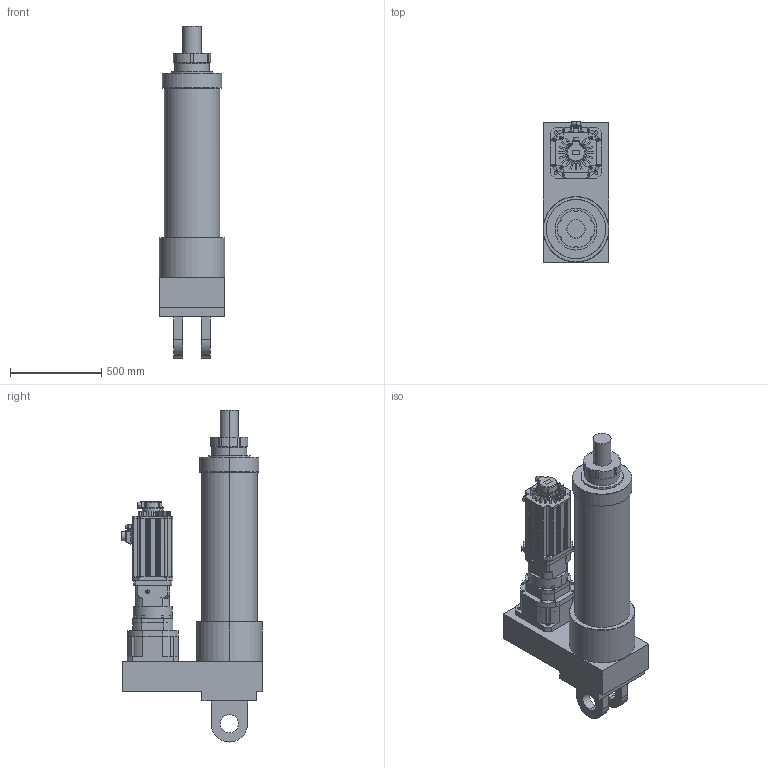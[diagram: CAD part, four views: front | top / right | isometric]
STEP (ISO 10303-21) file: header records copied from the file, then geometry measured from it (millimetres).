
FILE_DESCRIPTION (( 'STEP AP203' ), '1' );
FILE_NAME ('S12綴帣蝓假蚾.STEP', '2024-08-16T07:06:53', ( '' ), ( '' ), 'SwSTEP 2.0', 'SolidWorks 2018', '' );
FILE_SCHEMA (( 'CONFIG_CONTROL_DESIGN' ));
Length unit declared in the file: millimetre
Products named in the file (4): ECMA-F1221BS3-220框號系列機種-11KW高慣量系列; S12殏殿綴帣蝓; PLX280-L3 42-200-235-M12; S12綴帣蝓假蚾
Assembly tree (3 placements, depth 2):
  S12綴帣蝓假蚾
    S12殏殿綴帣蝓
    PLX280-L3 42-200-235-M12
    ECMA-F1221BS3-220框號系列機種-11KW高慣量系列
Bounding box: 360 x 769.2 x 1820 mm (x, y, z)
Volume: 168361223.7 mm3; surface area: 4181823.9 mm2
Topology: 7 solids, 13 shells, 1193 faces, 3100 edges, 1995 vertices
Faces by surface type: cylinder 514, plane 503, cone 137, bspline 18, torus 13, sphere 8
Entity records: 39719 total; most frequent: CARTESIAN_POINT 9896, DIRECTION 6270, ORIENTED_EDGE 5832, EDGE_CURVE 3058, AXIS2_PLACEMENT_3D 2354, VERTEX_POINT 1995, LINE 1562, VECTOR 1562
